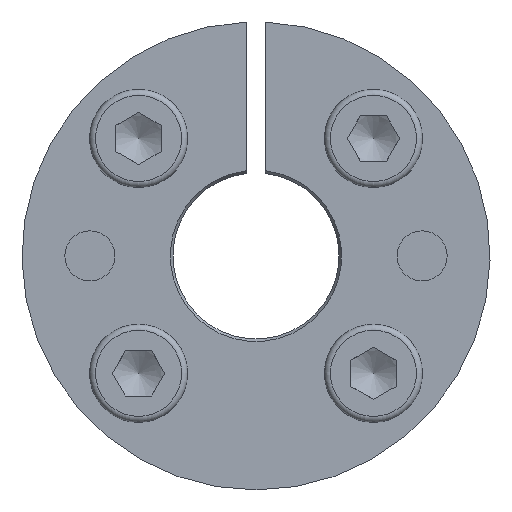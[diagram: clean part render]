
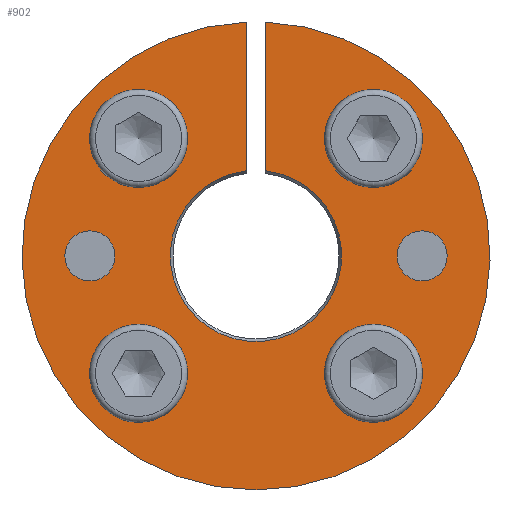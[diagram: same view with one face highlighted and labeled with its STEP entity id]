
A CAD part, left-side view. The second image highlights one B-rep face of the part: STEP entity #902.
In plain terms, the highlighted planar face has unit normal (-1, 0, 0).
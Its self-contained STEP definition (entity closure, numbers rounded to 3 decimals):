
#78=FACE_BOUND('',#184,.T.);
#79=FACE_BOUND('',#185,.T.);
#80=FACE_BOUND('',#186,.T.);
#81=FACE_BOUND('',#187,.T.);
#82=FACE_BOUND('',#188,.T.);
#83=FACE_BOUND('',#189,.T.);
#98=PLANE('',#1062);
#134=FACE_OUTER_BOUND('',#183,.T.);
#183=EDGE_LOOP('',(#713,#714,#715,#716));
#184=EDGE_LOOP('',(#717));
#185=EDGE_LOOP('',(#718));
#186=EDGE_LOOP('',(#719));
#187=EDGE_LOOP('',(#720));
#188=EDGE_LOOP('',(#721));
#189=EDGE_LOOP('',(#722));
#242=LINE('',#1598,#292);
#243=LINE('',#1606,#293);
#292=VECTOR('',#1210,10.);
#293=VECTOR('',#1213,10.);
#331=CIRCLE('',#1019,3.324);
#333=CIRCLE('',#1022,3.324);
#336=CIRCLE('',#1026,4.5);
#339=CIRCLE('',#1030,4.5);
#342=CIRCLE('',#1034,4.5);
#351=CIRCLE('',#1045,4.5);
#358=CIRCLE('',#1061,11.346);
#359=CIRCLE('',#1063,31.);
#389=VERTEX_POINT('',#1415);
#391=VERTEX_POINT('',#1421);
#395=VERTEX_POINT('',#1450);
#399=VERTEX_POINT('',#1479);
#403=VERTEX_POINT('',#1508);
#411=VERTEX_POINT('',#1550);
#415=VERTEX_POINT('',#1579);
#420=VERTEX_POINT('',#1596);
#421=VERTEX_POINT('',#1600);
#423=VERTEX_POINT('',#1605);
#478=EDGE_CURVE('',#389,#389,#331,.T.);
#481=EDGE_CURVE('',#391,#391,#333,.T.);
#486=EDGE_CURVE('',#395,#395,#336,.T.);
#491=EDGE_CURVE('',#399,#399,#339,.T.);
#496=EDGE_CURVE('',#403,#403,#342,.T.);
#509=EDGE_CURVE('',#411,#411,#351,.T.);
#520=EDGE_CURVE('',#415,#420,#242,.T.);
#522=EDGE_CURVE('',#423,#421,#243,.T.);
#534=EDGE_CURVE('',#421,#415,#358,.T.);
#535=EDGE_CURVE('',#423,#420,#359,.T.);
#713=ORIENTED_EDGE('',*,*,#520,.T.);
#714=ORIENTED_EDGE('',*,*,#535,.F.);
#715=ORIENTED_EDGE('',*,*,#522,.T.);
#716=ORIENTED_EDGE('',*,*,#534,.T.);
#717=ORIENTED_EDGE('',*,*,#478,.T.);
#718=ORIENTED_EDGE('',*,*,#481,.T.);
#719=ORIENTED_EDGE('',*,*,#486,.T.);
#720=ORIENTED_EDGE('',*,*,#491,.T.);
#721=ORIENTED_EDGE('',*,*,#496,.T.);
#722=ORIENTED_EDGE('',*,*,#509,.T.);
#902=ADVANCED_FACE('',(#134,#78,#79,#80,#81,#82,#83),#98,.T.);
#1019=AXIS2_PLACEMENT_3D('',#1417,#1139,#1140);
#1022=AXIS2_PLACEMENT_3D('',#1423,#1146,#1147);
#1026=AXIS2_PLACEMENT_3D('',#1452,#1155,#1156);
#1030=AXIS2_PLACEMENT_3D('',#1481,#1164,#1165);
#1034=AXIS2_PLACEMENT_3D('',#1510,#1173,#1174);
#1045=AXIS2_PLACEMENT_3D('',#1552,#1198,#1199);
#1061=AXIS2_PLACEMENT_3D('',#1632,#1240,#1241);
#1062=AXIS2_PLACEMENT_3D('',#1633,#1242,#1243);
#1063=AXIS2_PLACEMENT_3D('',#1634,#1244,#1245);
#1139=DIRECTION('center_axis',(1.,0.,0.));
#1140=DIRECTION('ref_axis',(0.,0.,1.));
#1146=DIRECTION('center_axis',(1.,0.,0.));
#1147=DIRECTION('ref_axis',(0.,0.,-1.));
#1155=DIRECTION('center_axis',(1.,0.,0.));
#1156=DIRECTION('ref_axis',(0.,-1.,0.));
#1164=DIRECTION('center_axis',(1.,0.,0.));
#1165=DIRECTION('ref_axis',(0.,0.,1.));
#1173=DIRECTION('center_axis',(1.,0.,0.));
#1174=DIRECTION('ref_axis',(0.,1.,0.));
#1198=DIRECTION('center_axis',(1.,0.,0.));
#1199=DIRECTION('ref_axis',(0.,0.,-1.));
#1210=DIRECTION('',(0.,0.,1.));
#1213=DIRECTION('',(0.,0.,-1.));
#1240=DIRECTION('center_axis',(1.,0.,0.));
#1241=DIRECTION('ref_axis',(0.,0.,-1.));
#1242=DIRECTION('center_axis',(-1.,0.,0.));
#1243=DIRECTION('ref_axis',(0.,0.,1.));
#1244=DIRECTION('center_axis',(1.,0.,0.));
#1245=DIRECTION('ref_axis',(0.,0.,-1.));
#1415=CARTESIAN_POINT('',(0.,-22.,-3.324));
#1417=CARTESIAN_POINT('Origin',(0.,-22.,0.));
#1421=CARTESIAN_POINT('',(0.,22.,3.324));
#1423=CARTESIAN_POINT('Origin',(0.,22.,0.));
#1450=CARTESIAN_POINT('',(0.,20.056,-15.556));
#1452=CARTESIAN_POINT('Origin',(0.,15.556,-15.556));
#1479=CARTESIAN_POINT('',(0.,-15.556,-20.056));
#1481=CARTESIAN_POINT('Origin',(0.,-15.556,-15.556));
#1508=CARTESIAN_POINT('',(0.,-20.056,15.556));
#1510=CARTESIAN_POINT('Origin',(0.,-15.556,15.556));
#1550=CARTESIAN_POINT('',(0.,15.556,20.056));
#1552=CARTESIAN_POINT('Origin',(0.,15.556,15.556));
#1579=CARTESIAN_POINT('',(0.,1.25,11.277));
#1596=CARTESIAN_POINT('',(0.,1.25,30.975));
#1598=CARTESIAN_POINT('',(0.,1.25,1.337));
#1600=CARTESIAN_POINT('',(0.,-1.25,11.277));
#1605=CARTESIAN_POINT('',(0.,-1.25,30.975));
#1606=CARTESIAN_POINT('',(0.,-1.25,16.617));
#1632=CARTESIAN_POINT('Origin',(0.,0.,0.));
#1633=CARTESIAN_POINT('Origin',(0.,31.,0.));
#1634=CARTESIAN_POINT('Origin',(0.,0.,0.));
